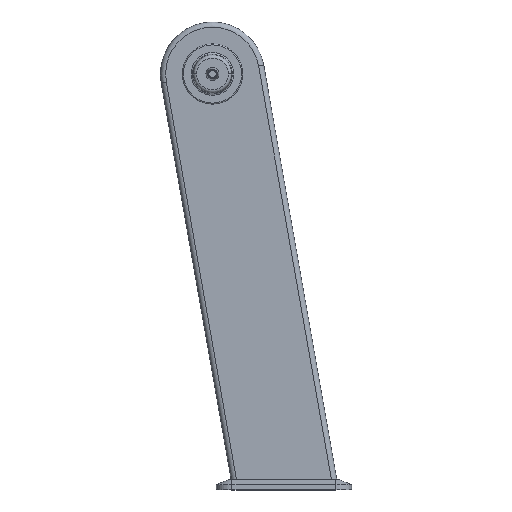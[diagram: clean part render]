
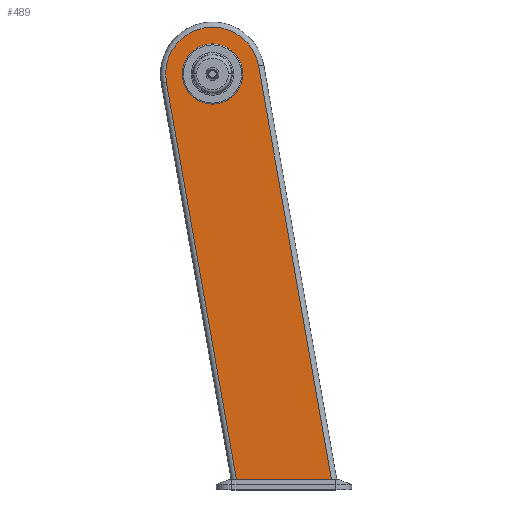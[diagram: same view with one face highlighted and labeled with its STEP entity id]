
A CAD part, top view. The second image highlights one B-rep face of the part: STEP entity #489.
In plain terms, the highlighted planar face has unit normal (0, 0, 1).
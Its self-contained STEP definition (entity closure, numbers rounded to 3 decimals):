
#13 = DIRECTION ( 'NONE',  ( 0., 0., 1. ) ) ;
#22 = DIRECTION ( 'NONE',  ( 1., 0., 0. ) ) ;
#50 = EDGE_CURVE ( 'NONE', #1595, #524, #714, .T. ) ;
#64 = ORIENTED_EDGE ( 'NONE', *, *, #848, .T. ) ;
#98 = ORIENTED_EDGE ( 'NONE', *, *, #2357, .F. ) ;
#148 = CARTESIAN_POINT ( 'NONE',  ( 228.923, -780., 31.25 ) ) ;
#311 = ORIENTED_EDGE ( 'NONE', *, *, #1375, .T. ) ;
#345 = DIRECTION ( 'NONE',  ( 0., 0., 1. ) ) ;
#399 = DIRECTION ( 'NONE',  ( -0.174, 0.985, 0. ) ) ;
#447 = CARTESIAN_POINT ( 'NONE',  ( 58., 0., 31.25 ) ) ;
#489 = ADVANCED_FACE ( 'NONE', ( #1129, #2128 ), #2164, .T. ) ;
#524 = VERTEX_POINT ( 'NONE', #447 ) ;
#645 = LINE ( 'NONE', #2054, #1669 ) ;
#672 = ORIENTED_EDGE ( 'NONE', *, *, #1201, .T. ) ;
#714 = CIRCLE ( 'NONE', #1136, 58. ) ;
#738 = VECTOR ( 'NONE', #399, 1000. ) ;
#777 = EDGE_CURVE ( 'NONE', #782, #1748, #1551, .T. ) ;
#782 = VERTEX_POINT ( 'NONE', #1754 ) ;
#786 = VERTEX_POINT ( 'NONE', #148 ) ;
#848 = EDGE_CURVE ( 'NONE', #954, #786, #2380, .T. ) ;
#865 = LINE ( 'NONE', #1200, #738 ) ;
#870 = VECTOR ( 'NONE', #1777, 1000. ) ;
#923 = EDGE_LOOP ( 'NONE', ( #672, #64, #311, #939 ) ) ;
#939 = ORIENTED_EDGE ( 'NONE', *, *, #777, .T. ) ;
#954 = VERTEX_POINT ( 'NONE', #2329 ) ;
#1129 = FACE_OUTER_BOUND ( 'NONE', #923, .T. ) ;
#1136 = AXIS2_PLACEMENT_3D ( 'NONE', #2350, #1247, #22 ) ;
#1157 = DIRECTION ( 'NONE',  ( 0., 0., 1. ) ) ;
#1170 = AXIS2_PLACEMENT_3D ( 'NONE', #1826, #13, #1438 ) ;
#1200 = CARTESIAN_POINT ( 'NONE',  ( 88.633, 15.628, 31.25 ) ) ;
#1201 = EDGE_CURVE ( 'NONE', #1748, #954, #645, .T. ) ;
#1247 = DIRECTION ( 'NONE',  ( 0., 0., 1. ) ) ;
#1375 = EDGE_CURVE ( 'NONE', #786, #782, #865, .T. ) ;
#1438 = DIRECTION ( 'NONE',  ( 1., 0., 0. ) ) ;
#1551 = CIRCLE ( 'NONE', #1787, 90. ) ;
#1559 = CARTESIAN_POINT ( 'NONE',  ( 0., 0., 31.25 ) ) ;
#1589 = CARTESIAN_POINT ( 'NONE',  ( 0., -780., 31.25 ) ) ;
#1595 = VERTEX_POINT ( 'NONE', #1868 ) ;
#1635 = CIRCLE ( 'NONE', #1794, 58. ) ;
#1669 = VECTOR ( 'NONE', #2217, 1000. ) ;
#1748 = VERTEX_POINT ( 'NONE', #1930 ) ;
#1753 = DIRECTION ( 'NONE',  ( 1., 0., 0. ) ) ;
#1754 = CARTESIAN_POINT ( 'NONE',  ( 88.633, 15.628, 31.25 ) ) ;
#1777 = DIRECTION ( 'NONE',  ( 1., 0., 0. ) ) ;
#1787 = AXIS2_PLACEMENT_3D ( 'NONE', #2273, #1157, #2450 ) ;
#1794 = AXIS2_PLACEMENT_3D ( 'NONE', #1559, #345, #1753 ) ;
#1826 = CARTESIAN_POINT ( 'NONE',  ( 0., 0., 31.25 ) ) ;
#1868 = CARTESIAN_POINT ( 'NONE',  ( -58., 0., 31.25 ) ) ;
#1930 = CARTESIAN_POINT ( 'NONE',  ( -88.633, -15.628, 31.25 ) ) ;
#1965 = ORIENTED_EDGE ( 'NONE', *, *, #50, .F. ) ;
#2054 = CARTESIAN_POINT ( 'NONE',  ( 49.367, -798.264, 31.25 ) ) ;
#2120 = EDGE_LOOP ( 'NONE', ( #98, #1965 ) ) ;
#2128 = FACE_BOUND ( 'NONE', #2120, .T. ) ;
#2164 = PLANE ( 'NONE',  #1170 ) ;
#2217 = DIRECTION ( 'NONE',  ( 0.174, -0.985, 0. ) ) ;
#2273 = CARTESIAN_POINT ( 'NONE',  ( 0., 0., 31.25 ) ) ;
#2329 = CARTESIAN_POINT ( 'NONE',  ( 46.147, -780., 31.25 ) ) ;
#2350 = CARTESIAN_POINT ( 'NONE',  ( 0., 0., 31.25 ) ) ;
#2357 = EDGE_CURVE ( 'NONE', #524, #1595, #1635, .T. ) ;
#2380 = LINE ( 'NONE', #1589, #870 ) ;
#2450 = DIRECTION ( 'NONE',  ( 1., 0., 0. ) ) ;
